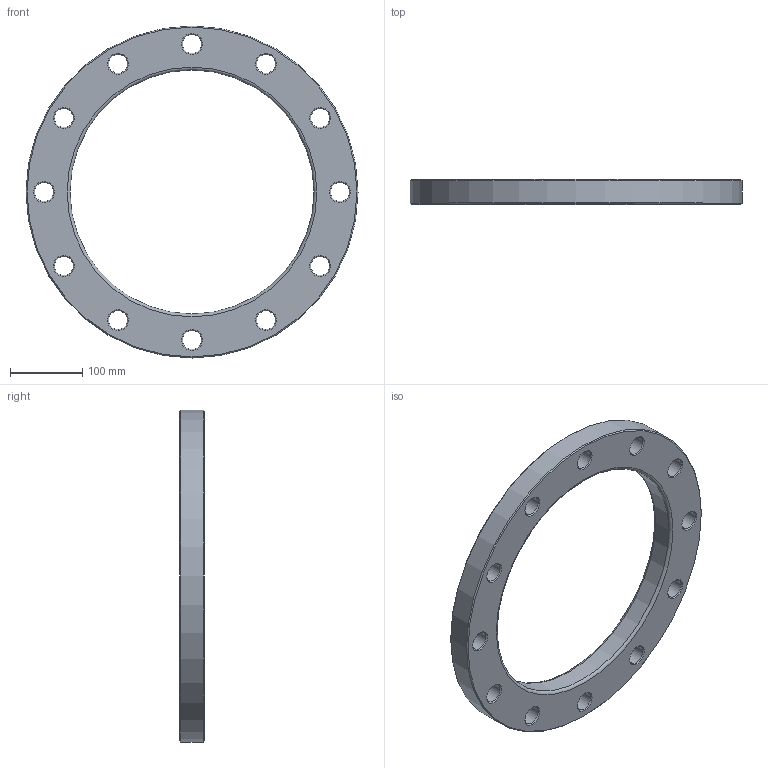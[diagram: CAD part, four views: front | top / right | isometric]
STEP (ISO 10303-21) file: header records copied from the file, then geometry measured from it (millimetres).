
FILE_DESCRIPTION(/* description */ ('Unknown'),/* implementation_level */ '2;1');
FILE_NAME(/* name */ 'FR315C',/* time_stamp */ '2022-07-05T17:11:49+02:00',/* author */ ('Unknown'),/* organization */ ('Unknown'),/* preprocessor_version */ 'ST-DEVELOPER v18.102',/* originating_system */ 'Solid Edge',/* authorisation */ 'Unknown');
FILE_SCHEMA (('AUTOMOTIVE_DESIGN {1 0 10303 214 3 1 1}'));
Length unit declared in the file: millimetre
Products named in the file (1): FR315C
Bounding box: 460 x 34 x 460 mm (x, y, z)
Volume: 2370265.2 mm3; surface area: 250918.3 mm2
Topology: 1 solids, 1 shells, 44 faces, 134 edges, 92 vertices
Faces by surface type: cone 26, cylinder 14, plane 2, torus 2
Full cylindrical faces by diameter (mm): 26 x12, 338 x1, 460 x1
Entity records: 1086 total; most frequent: DIRECTION 202, CARTESIAN_POINT 157, ORIENTED_EDGE 112, EDGE_LOOP 112, FACE_BOUND 112, AXIS2_PLACEMENT_3D 101, EDGE_CURVE 56, VERTEX_POINT 56
